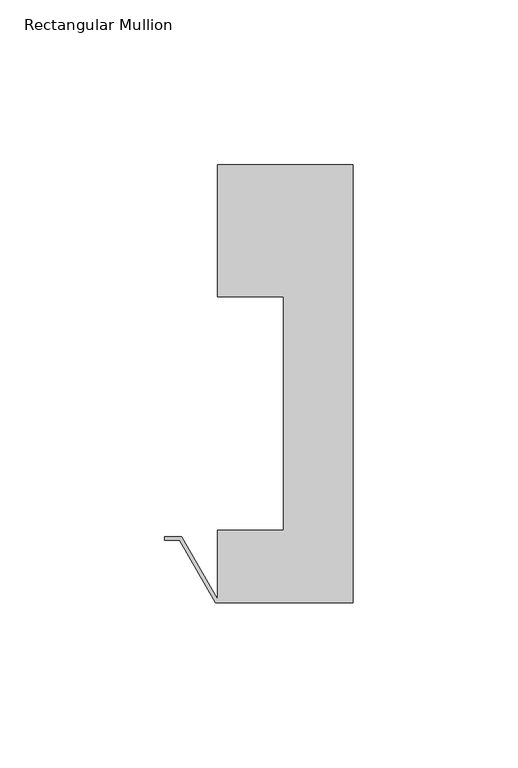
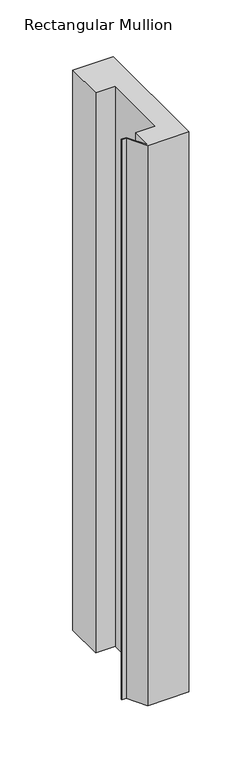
"""IFC4 building model written with IfcOpenShell, lengths in millimetres: member geometry, Rectangular Mullion : Danpal_TP_Top-Mullion."""

from ifc_helpers import new_model, si_unit, frame, origin, place, context, project, spatial, polyline, outline, extrude, source, transform, mapped, element, save


def rectangular_mullion_9e6fbf5d(model_context):
    return source(origin(), model_context, "Body", "SweptSolid", [
        extrude(outline(polyline([(0.0, -28.5050905), (-41.5773503, -28.5050905), (-52.5470054, -9.5050905), (-57.0367273, -9.5050905), (-57.0367273, -8.5050905), (-51.9696551, -8.5050905), (-41.0, -27.5050905), (-41.0, -6.5050905), (-21.0, -6.5050905), (-21.0, 64.1949095), (-41.0, 64.1949095), (-41.0, 104.1949095), (0.0, 104.1949095), (0.0, -28.5050905)])), frame((0.0, 0.0, -601.0), z_axis=(0.0, 0.0, 1.0), x_axis=(1.0, 0.0, 0.0)), (0.0, 0.0, 1.0), 601.0),
    ])


if __name__ == "__main__":
    model = new_model("IFC4")
    model_context = context("Model", 3, world=origin())
    ifc_project = project(units=[si_unit("LENGTHUNIT", "METRE", prefix="MILLI")], contexts=[model_context])
    site = spatial("IfcSite", under=ifc_project)
    building = spatial("IfcBuilding", under=site)
    placement = place(None, origin())
    rectangular_mullion_shape = rectangular_mullion_9e6fbf5d(model_context)
    element("IfcMember", 1, ObjectType="Rectangular Mullion : Danpal_TP_Top-Mullion", at=placement, inside=building, context=model_context, shape_type="MappedRepresentation", body=[
        mapped(rectangular_mullion_shape, transform((0.0, 0.0, 0.0), x_axis=(1.0, 0.0, 0.0), y_axis=(0.0, 1.0, 0.0), z_axis=(0.0, 0.0, 1.0))),
    ])
    save(model, "model.ifc")
